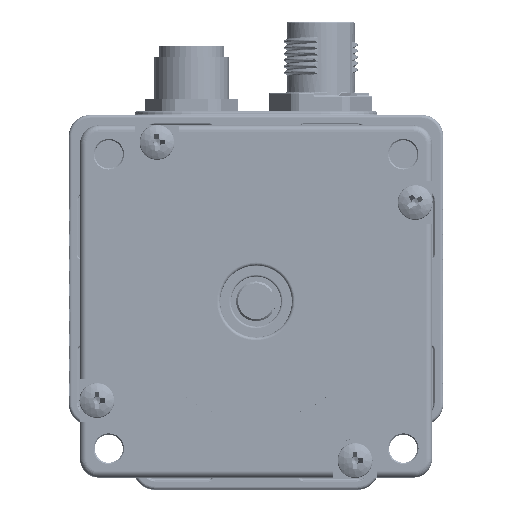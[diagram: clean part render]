
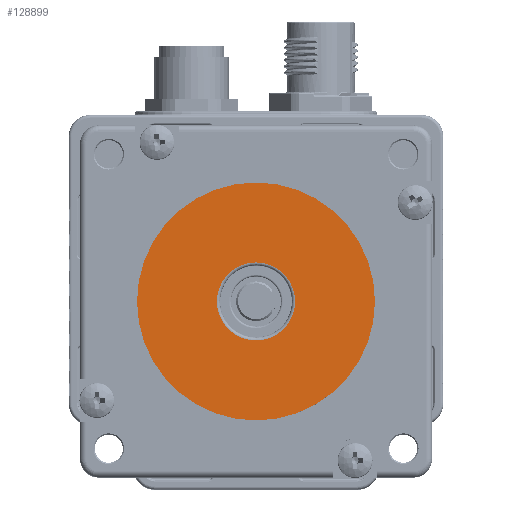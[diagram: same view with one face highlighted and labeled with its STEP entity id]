
A CAD part, top view. The second image highlights one B-rep face of the part: STEP entity #128899.
In plain terms, the highlighted planar face has unit normal (0, 0, 1).
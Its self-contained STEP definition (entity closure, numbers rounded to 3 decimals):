
#8033 = CARTESIAN_POINT ( 'NONE',  ( -54., -2.918, 33.1 ) ) ;
#23200 = CARTESIAN_POINT ( 'NONE',  ( -47.75, -2.918, 33.1 ) ) ;
#40332 = EDGE_CURVE ( 'NONE', #116773, #47606, #112331, .T. ) ;
#47606 = VERTEX_POINT ( 'NONE', #23200 ) ;
#49151 = CARTESIAN_POINT ( 'NONE',  ( -25.8, -31.118, 33.1 ) ) ;
#65367 = EDGE_LOOP ( 'NONE', ( #133562, #93843 ) ) ;
#66888 = PLANE ( 'NONE',  #110336 ) ;
#70561 = EDGE_CURVE ( 'NONE', #83341, #291036, #267936, .T. ) ;
#73965 = DIRECTION ( 'NONE',  ( 0., 0., 1. ) ) ;
#83341 = VERTEX_POINT ( 'NONE', #221139 ) ;
#84345 = DIRECTION ( 'NONE',  ( 1., 0., 0. ) ) ;
#93843 = ORIENTED_EDGE ( 'NONE', *, *, #70561, .T. ) ;
#103811 = DIRECTION ( 'NONE',  ( 1., 0., 0. ) ) ;
#107553 = CARTESIAN_POINT ( 'NONE',  ( -60.25, -2.918, 33.1 ) ) ;
#110336 = AXIS2_PLACEMENT_3D ( 'NONE', #49151, #208505, #183526 ) ;
#112331 = CIRCLE ( 'NONE', #150008, 6.25 ) ;
#113061 = CIRCLE ( 'NONE', #245425, 6.25 ) ;
#115428 = CARTESIAN_POINT ( 'NONE',  ( -54., -2.918, 33.1 ) ) ;
#116773 = VERTEX_POINT ( 'NONE', #107553 ) ;
#121145 = CARTESIAN_POINT ( 'NONE',  ( -54., -2.918, 33.1 ) ) ;
#123908 = CIRCLE ( 'NONE', #227764, 19.05 ) ;
#128899 = ADVANCED_FACE ( 'NONE', ( #155452, #269291 ), #66888, .T. ) ;
#130897 = EDGE_CURVE ( 'NONE', #291036, #83341, #123908, .T. ) ;
#133562 = ORIENTED_EDGE ( 'NONE', *, *, #130897, .T. ) ;
#140338 = AXIS2_PLACEMENT_3D ( 'NONE', #121145, #73965, #162534 ) ;
#150008 = AXIS2_PLACEMENT_3D ( 'NONE', #291150, #286803, #84345 ) ;
#154311 = DIRECTION ( 'NONE',  ( 1., 0., 0. ) ) ;
#155452 = FACE_BOUND ( 'NONE', #289236, .T. ) ;
#162534 = DIRECTION ( 'NONE',  ( 1., 0., 0. ) ) ;
#179649 = ORIENTED_EDGE ( 'NONE', *, *, #40332, .T. ) ;
#183526 = DIRECTION ( 'NONE',  ( 1., 0., 0. ) ) ;
#195731 = ORIENTED_EDGE ( 'NONE', *, *, #225839, .T. ) ;
#208505 = DIRECTION ( 'NONE',  ( 0., 0., 1. ) ) ;
#219386 = DIRECTION ( 'NONE',  ( 0., 0., 1. ) ) ;
#221139 = CARTESIAN_POINT ( 'NONE',  ( -73.05, -2.918, 33.1 ) ) ;
#225839 = EDGE_CURVE ( 'NONE', #47606, #116773, #113061, .T. ) ;
#227764 = AXIS2_PLACEMENT_3D ( 'NONE', #115428, #219386, #154311 ) ;
#245425 = AXIS2_PLACEMENT_3D ( 'NONE', #8033, #279722, #103811 ) ;
#267936 = CIRCLE ( 'NONE', #140338, 19.05 ) ;
#269291 = FACE_OUTER_BOUND ( 'NONE', #65367, .T. ) ;
#277305 = CARTESIAN_POINT ( 'NONE',  ( -34.95, -2.918, 33.1 ) ) ;
#279722 = DIRECTION ( 'NONE',  ( 0., 0., -1. ) ) ;
#286803 = DIRECTION ( 'NONE',  ( 0., 0., -1. ) ) ;
#289236 = EDGE_LOOP ( 'NONE', ( #195731, #179649 ) ) ;
#291036 = VERTEX_POINT ( 'NONE', #277305 ) ;
#291150 = CARTESIAN_POINT ( 'NONE',  ( -54., -2.918, 33.1 ) ) ;
